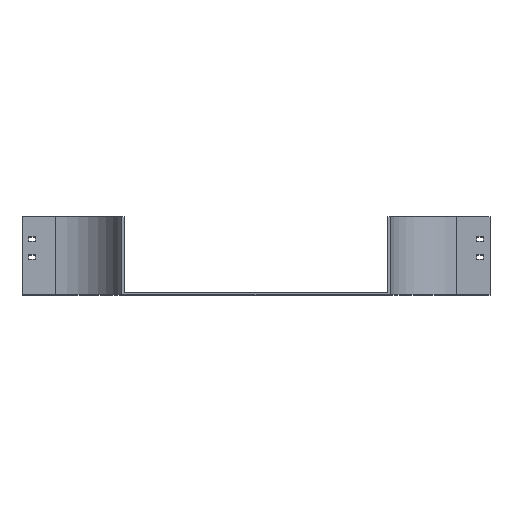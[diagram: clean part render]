
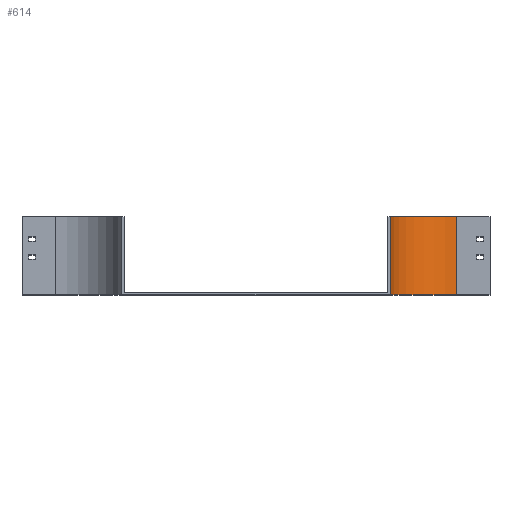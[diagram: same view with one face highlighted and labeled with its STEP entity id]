
A CAD part, top view. The second image highlights one B-rep face of the part: STEP entity #614.
In plain terms, the highlighted cylindrical face has radius 100 mm (diameter 200 mm), a partial arc.
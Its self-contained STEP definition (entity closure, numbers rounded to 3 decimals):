
#72 = CARTESIAN_POINT ( 'NONE',  ( -100., 117.5, 0. ) ) ;
#241 = EDGE_CURVE ( 'NONE', #247, #2111, #1523, .T. ) ;
#247 = VERTEX_POINT ( 'NONE', #72 ) ;
#314 = CYLINDRICAL_SURFACE ( 'NONE', #3009, 100. ) ;
#473 = ORIENTED_EDGE ( 'NONE', *, *, #1573, .T. ) ;
#568 = DIRECTION ( 'NONE',  ( 0., -1., 0. ) ) ;
#614 = ADVANCED_FACE ( 'NONE', ( #2890 ), #314, .F. ) ;
#638 = CARTESIAN_POINT ( 'NONE',  ( -100., 0., 0. ) ) ;
#782 = VERTEX_POINT ( 'NONE', #3436 ) ;
#836 = DIRECTION ( 'NONE',  ( 0., -1., 0. ) ) ;
#852 = DIRECTION ( 'NONE',  ( 0., 0., -1. ) ) ;
#872 = DIRECTION ( 'NONE',  ( 0., -1., 0. ) ) ;
#927 = EDGE_CURVE ( 'NONE', #247, #782, #1679, .T. ) ;
#1185 = VECTOR ( 'NONE', #2755, 1000. ) ;
#1274 = ORIENTED_EDGE ( 'NONE', *, *, #241, .T. ) ;
#1276 = AXIS2_PLACEMENT_3D ( 'NONE', #3200, #836, #3799 ) ;
#1296 = CARTESIAN_POINT ( 'NONE',  ( 0., 0., -100. ) ) ;
#1478 = CARTESIAN_POINT ( 'NONE',  ( 0., 117.5, 0. ) ) ;
#1523 = LINE ( 'NONE', #2685, #1185 ) ;
#1570 = EDGE_LOOP ( 'NONE', ( #473, #2313, #2336, #1274 ) ) ;
#1573 = EDGE_CURVE ( 'NONE', #2111, #2628, #3659, .T. ) ;
#1679 = CIRCLE ( 'NONE', #3462, 100. ) ;
#1994 = CARTESIAN_POINT ( 'NONE',  ( 0., 117.5, -100. ) ) ;
#2111 = VERTEX_POINT ( 'NONE', #638 ) ;
#2278 = CARTESIAN_POINT ( 'NONE',  ( 0., 117.5, 0. ) ) ;
#2313 = ORIENTED_EDGE ( 'NONE', *, *, #3490, .F. ) ;
#2336 = ORIENTED_EDGE ( 'NONE', *, *, #927, .F. ) ;
#2587 = DIRECTION ( 'NONE',  ( 0., -1., 0. ) ) ;
#2628 = VERTEX_POINT ( 'NONE', #1296 ) ;
#2685 = CARTESIAN_POINT ( 'NONE',  ( -100., 117.5, 0. ) ) ;
#2755 = DIRECTION ( 'NONE',  ( 0., -1., 0. ) ) ;
#2890 = FACE_OUTER_BOUND ( 'NONE', #1570, .T. ) ;
#3009 = AXIS2_PLACEMENT_3D ( 'NONE', #1478, #568, #852 ) ;
#3200 = CARTESIAN_POINT ( 'NONE',  ( 0., 0., 0. ) ) ;
#3436 = CARTESIAN_POINT ( 'NONE',  ( 0., 117.5, -100. ) ) ;
#3454 = DIRECTION ( 'NONE',  ( 0., 0., -1. ) ) ;
#3462 = AXIS2_PLACEMENT_3D ( 'NONE', #2278, #872, #3454 ) ;
#3490 = EDGE_CURVE ( 'NONE', #782, #2628, #3820, .T. ) ;
#3544 = VECTOR ( 'NONE', #2587, 1000. ) ;
#3659 = CIRCLE ( 'NONE', #1276, 100. ) ;
#3799 = DIRECTION ( 'NONE',  ( 0., 0., -1. ) ) ;
#3820 = LINE ( 'NONE', #1994, #3544 ) ;
